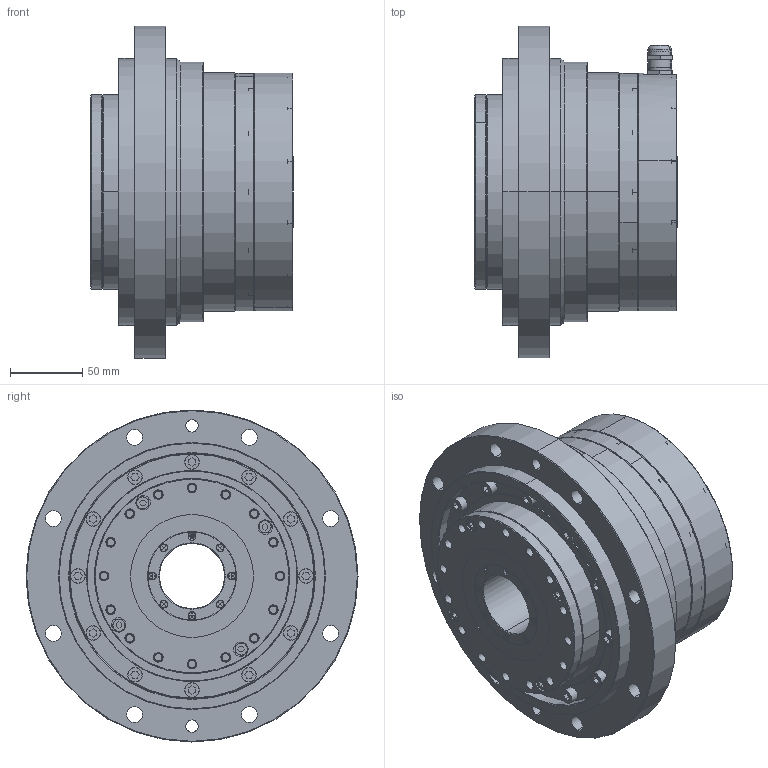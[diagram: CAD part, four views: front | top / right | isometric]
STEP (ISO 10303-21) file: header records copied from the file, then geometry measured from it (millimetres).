
FILE_DESCRIPTION (( 'STEP AP214' ), '1' );
FILE_NAME ('KAT-40CM3NS 軞蚾饜芞.STEP', '2022-05-05T02:50:13', ( 'Admin' ), ( '' ), 'SwSTEP 2.0', 'SolidWorks 2020', '' );
FILE_SCHEMA (( 'AUTOMOTIVE_DESIGN' ));
Length unit declared in the file: millimetre
Products named in the file (1): KAT-40CM3NS 軞蚾饜芞
Bounding box: 140.1 x 230 x 230 mm (x, y, z)
Volume: 1487901.7 mm3; surface area: 525962.5 mm2
Topology: 74 solids, 74 shells, 2588 faces, 6284 edges, 3887 vertices
Faces by surface type: cylinder 872, plane 848, cone 364, torus 304, sphere 192, bspline 8
Entity records: 111516 total; most frequent: CARTESIAN_POINT 20262, DIRECTION 13748, ORIENTED_EDGE 12344, EDGE_CURVE 6172, AXIS2_PLACEMENT_3D 5649, VERTEX_POINT 3887, EDGE_LOOP 3167, CIRCLE 3068
